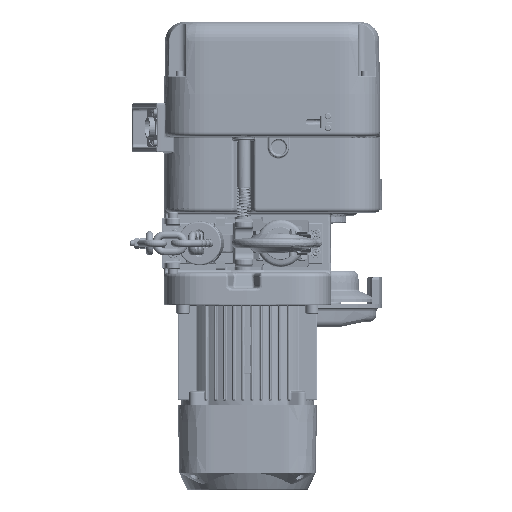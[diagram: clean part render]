
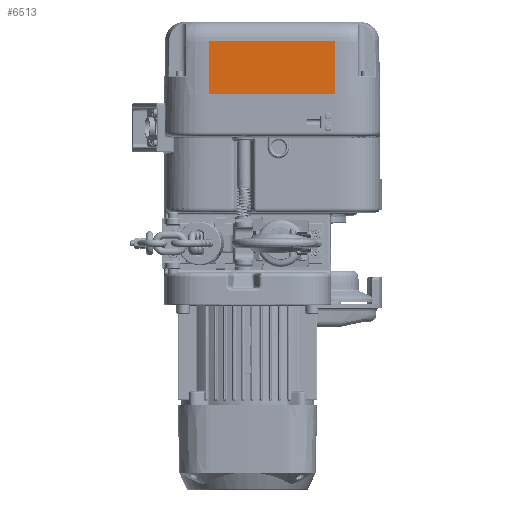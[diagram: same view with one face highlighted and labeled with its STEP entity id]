
A CAD part, front view. The second image highlights one B-rep face of the part: STEP entity #6513.
In plain terms, the highlighted planar face has unit normal (0, -1, 0.018).
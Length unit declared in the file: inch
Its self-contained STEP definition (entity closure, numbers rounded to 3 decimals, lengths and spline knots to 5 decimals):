
#789 = VERTEX_POINT ( 'NONE', #133215 ) ;
#6513 = ADVANCED_FACE ( 'NONE', ( #156235 ), #73127, .T. ) ;
#29220 = LINE ( 'NONE', #128273, #84489 ) ;
#29690 = VERTEX_POINT ( 'NONE', #198793 ) ;
#30613 = AXIS2_PLACEMENT_3D ( 'NONE', #102407, #170898, #86676 ) ;
#35952 = LINE ( 'NONE', #156176, #180838 ) ;
#38984 = CARTESIAN_POINT ( 'NONE',  ( 3.4341, -4.74409, 0. ) ) ;
#42230 = ORIENTED_EDGE ( 'NONE', *, *, #219241, .T. ) ;
#43707 = CARTESIAN_POINT ( 'NONE',  ( -3.4341, -4.69293, 2.93125 ) ) ;
#43940 = DIRECTION ( 'NONE',  ( 0., -0.017, -1. ) ) ;
#43993 = ORIENTED_EDGE ( 'NONE', *, *, #80597, .F. ) ;
#52780 = VECTOR ( 'NONE', #67987, 39.37008 ) ;
#63509 = DIRECTION ( 'NONE',  ( 0., -0.017, -1. ) ) ;
#67987 = DIRECTION ( 'NONE',  ( -1., 0., 0. ) ) ;
#73127 = PLANE ( 'NONE',  #30613 ) ;
#80597 = EDGE_CURVE ( 'NONE', #163942, #789, #105045, .T. ) ;
#84489 = VECTOR ( 'NONE', #43940, 39.37008 ) ;
#86676 = DIRECTION ( 'NONE',  ( 0., -0.017, -1. ) ) ;
#102407 = CARTESIAN_POINT ( 'NONE',  ( 0., -4.74409, 0. ) ) ;
#105045 = LINE ( 'NONE', #222042, #52780 ) ;
#128273 = CARTESIAN_POINT ( 'NONE',  ( -3.4341, -4.74409, 0. ) ) ;
#133215 = CARTESIAN_POINT ( 'NONE',  ( -3.4341, -4.74409, 0. ) ) ;
#134123 = ORIENTED_EDGE ( 'NONE', *, *, #187736, .F. ) ;
#138373 = EDGE_LOOP ( 'NONE', ( #134123, #166284, #42230, #43993 ) ) ;
#156176 = CARTESIAN_POINT ( 'NONE',  ( 0., -4.69293, 2.93125 ) ) ;
#156235 = FACE_OUTER_BOUND ( 'NONE', #138373, .T. ) ;
#163942 = VERTEX_POINT ( 'NONE', #38984 ) ;
#166284 = ORIENTED_EDGE ( 'NONE', *, *, #207277, .T. ) ;
#170898 = DIRECTION ( 'NONE',  ( 0., -1., 0.017 ) ) ;
#176014 = VECTOR ( 'NONE', #63509, 39.37008 ) ;
#177538 = DIRECTION ( 'NONE',  ( -1., 0., 0. ) ) ;
#180838 = VECTOR ( 'NONE', #177538, 39.37008 ) ;
#183744 = LINE ( 'NONE', #219786, #176014 ) ;
#187736 = EDGE_CURVE ( 'NONE', #29690, #163942, #183744, .T. ) ;
#198793 = CARTESIAN_POINT ( 'NONE',  ( 3.4341, -4.69293, 2.93125 ) ) ;
#207277 = EDGE_CURVE ( 'NONE', #29690, #207381, #35952, .T. ) ;
#207381 = VERTEX_POINT ( 'NONE', #43707 ) ;
#219241 = EDGE_CURVE ( 'NONE', #207381, #789, #29220, .T. ) ;
#219786 = CARTESIAN_POINT ( 'NONE',  ( 3.4341, -4.74409, 0. ) ) ;
#222042 = CARTESIAN_POINT ( 'NONE',  ( 0., -4.74409, 0. ) ) ;
